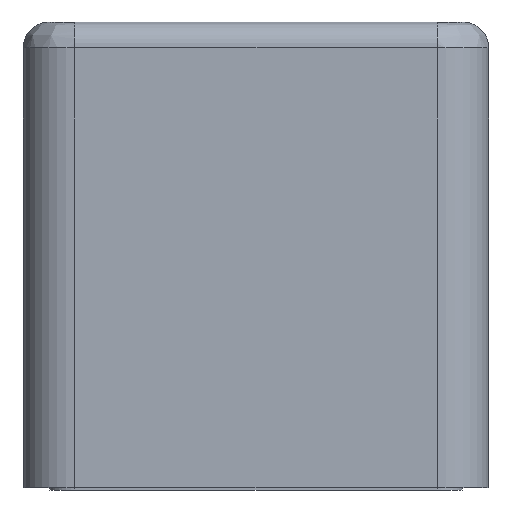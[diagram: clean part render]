
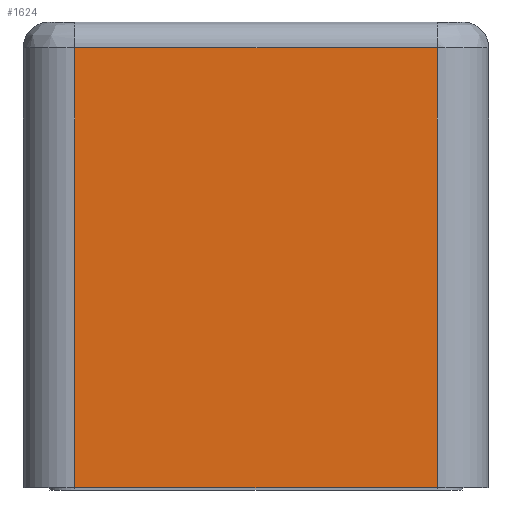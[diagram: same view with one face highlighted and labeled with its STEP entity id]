
A CAD part, left-side view. The second image highlights one B-rep face of the part: STEP entity #1624.
In plain terms, the highlighted planar face has unit normal (-1, 0, 0).
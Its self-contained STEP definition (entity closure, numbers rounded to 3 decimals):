
#60=DIRECTION('',(0.,-1.,0.));
#61=VECTOR('',#60,14.);
#62=CARTESIAN_POINT('',(-14.,7.,0.));
#63=LINE('',#62,#61);
#362=DIRECTION('',(0.,-1.,0.));
#363=VECTOR('',#362,14.);
#364=CARTESIAN_POINT('',(-14.,7.,17.));
#365=LINE('',#364,#363);
#366=DIRECTION('',(0.,0.,-1.));
#367=VECTOR('',#366,17.);
#368=CARTESIAN_POINT('',(-14.,-7.,17.));
#369=LINE('',#368,#367);
#370=DIRECTION('',(0.,0.,-1.));
#371=VECTOR('',#370,17.);
#372=CARTESIAN_POINT('',(-14.,7.,17.));
#373=LINE('',#372,#371);
#921=CARTESIAN_POINT('',(-14.,7.,0.));
#923=VERTEX_POINT('',#921);
#926=CARTESIAN_POINT('',(-14.,-7.,0.));
#928=VERTEX_POINT('',#926);
#1046=CARTESIAN_POINT('',(-14.,7.,17.));
#1048=VERTEX_POINT('',#1046);
#1051=CARTESIAN_POINT('',(-14.,-7.,17.));
#1052=VERTEX_POINT('',#1051);
#1612=CARTESIAN_POINT('',(-14.,9.,0.));
#1613=DIRECTION('',(-1.,0.,0.));
#1614=DIRECTION('',(0.,-1.,0.));
#1615=AXIS2_PLACEMENT_3D('',#1612,#1613,#1614);
#1616=PLANE('',#1615);
#1617=ORIENTED_EDGE('',*,*,#1460,.T.);
#1619=ORIENTED_EDGE('',*,*,#1618,.T.);
#1620=ORIENTED_EDGE('',*,*,#1088,.F.);
#1621=ORIENTED_EDGE('',*,*,#1605,.F.);
#1622=EDGE_LOOP('',(#1617,#1619,#1620,#1621));
#1623=FACE_OUTER_BOUND('',#1622,.F.);
#1624=ADVANCED_FACE('',(#1623),#1616,.T.);
#1088=EDGE_CURVE('',#923,#928,#63,.T.);
#1460=EDGE_CURVE('',#1048,#1052,#365,.T.);
#1605=EDGE_CURVE('',#1048,#923,#373,.T.);
#1618=EDGE_CURVE('',#1052,#928,#369,.T.);
